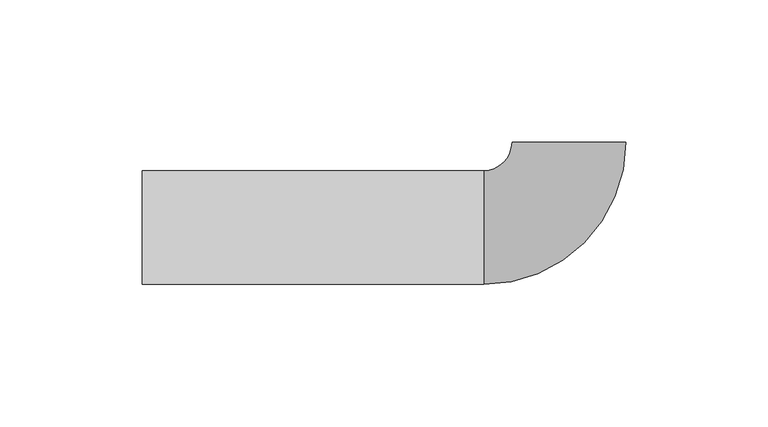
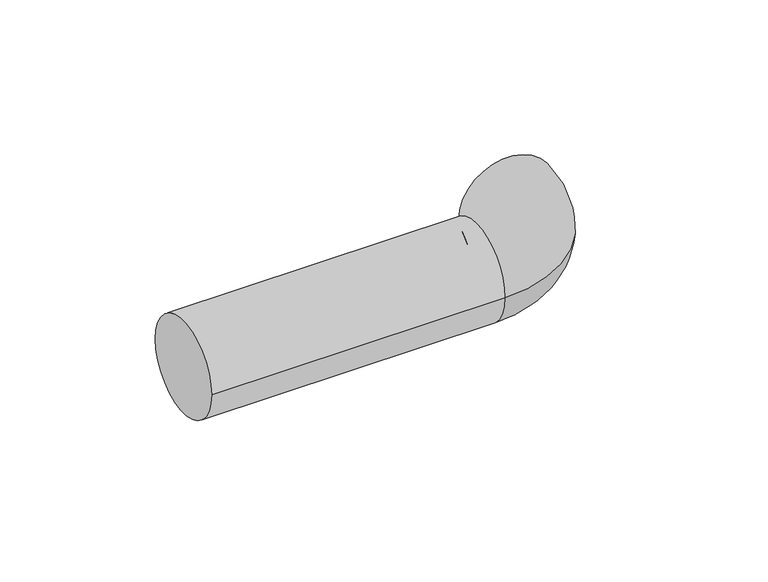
"""IFC4 building model written with IfcOpenShell, lengths in millimetres: pipe fitting geometry, Pipelife - VRD - Kolano wydłużone : Pipelife - VRD - Kolano wydłużone."""

import ifcopenshell
import ifcopenshell.guid

model = None  # the IFC model being written
_history = None  # IfcOwnerHistory: only IFC2X3 demands one
_inside = {}  # id of a spatial element -> (the spatial element, [elements in it])
_under = {}  # id of a project, library or spatial element -> (it, [spatial elements below it])
_declared = {}  # id of a project -> (the project, [libraries it declares])
_typed = {}  # id of a type object -> (the type object, [elements of that type])
_made_of = {}  # id of a material, layer set ... -> (it, [elements and type objects made of it])


def new_model(schema):
    """Start an empty IFC model of exactly this schema.

    Asked for "IFC4X3", IfcOpenShell would pick the latest addendum, in which some entities
    have other attributes; the version numbers below select the first issue.
    IFC2X3 requires an IfcOwnerHistory on every rooted entity: one is made here for all.
    """
    global model, _history
    if schema == "IFC4X3":
        model = ifcopenshell.file(schema_version=(4, 3, 0, 0))
    else:
        model = ifcopenshell.file(schema=schema)
    _inside.clear()
    _under.clear()
    _declared.clear()
    _typed.clear()
    _made_of.clear()
    _history = None
    if model.schema == "IFC2X3":
        org = make("IfcOrganization", Name="unknown")
        user = make(
            "IfcPersonAndOrganization",
            ThePerson=make("IfcPerson", FamilyName="unknown"),
            TheOrganization=org,
        )
        app = make(
            "IfcApplication",
            ApplicationDeveloper=org,
            Version="unknown",
            ApplicationFullName="unknown",
            ApplicationIdentifier="unknown",
        )
        _history = make(
            "IfcOwnerHistory",
            OwningUser=user,
            OwningApplication=app,
            ChangeAction="ADDED",
            CreationDate=0,
        )
    return model


def make(cls, **values):
    """One entity of the class cls with the attributes given. An attribute that is None is left unset."""
    return model.create_entity(
        cls, **{name: value for name, value in values.items() if value is not None}
    )


def rooted(cls, **values):
    """An entity with a GlobalId (a new one), such as an element, a storey or a relation."""
    return make(cls, GlobalId=ifcopenshell.guid.new(), OwnerHistory=_history, **values)


def si_unit(unit_type, name, prefix=None):
    """IfcSIUnit, for example si_unit("LENGTHUNIT", "METRE", prefix="MILLI")."""
    return make("IfcSIUnit", UnitType=unit_type, Prefix=prefix, Name=name)


def assignment(units):
    """IfcUnitAssignment: the units of a project."""
    return None if units is None else make("IfcUnitAssignment", Units=units)


def point(xyz):
    """IfcCartesianPoint."""
    return None if xyz is None else make("IfcCartesianPoint", Coordinates=xyz)


def direction(xyz):
    """IfcDirection."""
    return None if xyz is None else make("IfcDirection", DirectionRatios=xyz)


def frame(location, z_axis=None, x_axis=None):
    """IfcAxis2Placement3D, a coordinate frame: its origin and axes. An axis left out is left unset."""
    return make(
        "IfcAxis2Placement3D",
        Location=point(location),
        Axis=direction(z_axis),
        RefDirection=direction(x_axis),
    )


def origin():
    """The frame at (0, 0, 0) with its axes left unset."""
    return frame((0.0, 0.0, 0.0))


def place(relative_to, where):
    """IfcLocalPlacement: puts the frame where relative to a parent placement (None: the world)."""
    return make(
        "IfcLocalPlacement", PlacementRelTo=relative_to, RelativePlacement=where
    )


def context(
    kind, dimensions, precision=None, world=None, true_north=None, identifier=None
):
    """IfcGeometricRepresentationContext, for example the 3D "Model" context."""
    return make(
        "IfcGeometricRepresentationContext",
        ContextIdentifier=identifier,
        ContextType=kind,
        CoordinateSpaceDimension=dimensions,
        Precision=precision,
        WorldCoordinateSystem=world,
        TrueNorth=true_north,
    )


def project(units=None, contexts=None):
    """IfcProject with its units and contexts."""
    return rooted(
        "IfcProject",
        Name="project",
        RepresentationContexts=contexts,
        UnitsInContext=assignment(units),
    )


def spatial(cls, under=None, at=None, **own):
    """A site, building, storey or space (cls), placed at a placement, below another one or the project."""
    s = rooted(cls, ObjectPlacement=at, **own)
    if under is not None:
        _under.setdefault(under.id(), (under, []))[1].append(s)
    return s


def circle_curve(where, radius):
    """IfcCircle in the frame where."""
    return make("IfcCircle", Position=where, Radius=radius)


def ellipse_curve(where, semi_axis1, semi_axis2):
    """IfcEllipse in the frame where."""
    return make(
        "IfcEllipse", Position=where, SemiAxis1=semi_axis1, SemiAxis2=semi_axis2
    )


def trimmed(basis, trim1, trim2, sense, master):
    """IfcTrimmedCurve: the piece of a basis curve between two trims."""
    return make(
        "IfcTrimmedCurve",
        BasisCurve=basis,
        Trim1=trim1,
        Trim2=trim2,
        SenseAgreement=sense,
        MasterRepresentation=master,
    )


def shape(context_of_items, identifier, shape_type, items):
    """IfcShapeRepresentation: the items that make up one representation, for example the "Body"."""
    return make(
        "IfcShapeRepresentation",
        ContextOfItems=context_of_items,
        RepresentationIdentifier=identifier,
        RepresentationType=shape_type,
        Items=items,
    )


def source(mapping_origin, context_of_items, identifier, shape_type, items):
    """IfcRepresentationMap: a shape defined once, which mapped items show again and again."""
    return make(
        "IfcRepresentationMap",
        MappingOrigin=mapping_origin,
        MappedRepresentation=shape(context_of_items, identifier, shape_type, items),
    )


def transform(
    local_origin,
    x_axis=None,
    y_axis=None,
    z_axis=None,
    scale=None,
    scale2=None,
    scale3=None,
    uniform=True,
):
    """IfcCartesianTransformationOperator3D, or its non-uniform kind. x_axis, y_axis, z_axis: its Axis1, 2, 3."""
    if uniform:
        return make(
            "IfcCartesianTransformationOperator3D",
            Axis1=direction(x_axis),
            Axis2=direction(y_axis),
            LocalOrigin=point(local_origin),
            Scale=scale,
            Axis3=direction(z_axis),
        )
    return make(
        "IfcCartesianTransformationOperator3DnonUniform",
        Axis1=direction(x_axis),
        Axis2=direction(y_axis),
        LocalOrigin=point(local_origin),
        Scale=scale,
        Axis3=direction(z_axis),
        Scale2=scale2,
        Scale3=scale3,
    )


def mapped(mapping_source, mapping_target):
    """IfcMappedItem: shows the shape of a source again, moved by a transform."""
    return make(
        "IfcMappedItem", MappingSource=mapping_source, MappingTarget=mapping_target
    )


def made_of(thing, what):
    """Note that an element or type object is made of a material, layer set ...; save() writes the relation."""
    if what is not None:
        _made_of.setdefault(what.id(), (what, []))[1].append(thing)
    return thing


def element(
    cls,
    number,
    at=None,
    inside=None,
    cuts=None,
    type_object=None,
    material=None,
    context=None,
    identifier="Body",
    shape_type=None,
    held_by="IfcProductDefinitionShape",
    body=None,
    shapes=None,
    **own,
):
    """One element of the class cls, such as IfcWall. Its Tag is "e" and its number.

    at: its placement. inside: the storey or other place that contains it. cuts: it is an
    opening in that element (IfcRelVoidsElement). A single representation is given by context,
    identifier, shape_type and body (its items); several are given by shapes. held_by: the class
    of the entity that holds the representations. save() writes the other relations.
    """
    e = rooted(cls, Tag="e%d" % number, ObjectPlacement=at, **own)
    if body is not None:
        shapes = [shape(context, identifier, shape_type, body)]
    if shapes is not None:
        e.Representation = make(held_by, Representations=shapes)
    if inside is not None:
        _inside.setdefault(inside.id(), (inside, []))[1].append(e)
    if cuts is not None:
        rooted(
            "IfcRelVoidsElement", RelatingBuildingElement=cuts, RelatedOpeningElement=e
        )
    if type_object is not None:
        _typed.setdefault(type_object.id(), (type_object, []))[1].append(e)
    return made_of(e, material)


def aggregate(whole, parts):
    """IfcRelAggregates: a whole, such as a stair, and the parts it consists of."""
    return rooted("IfcRelAggregates", RelatingObject=whole, RelatedObjects=parts)


def save(model, path):
    """Write the relations noted so far, then the file.

    IfcRelAggregates (storeys below a building ...), IfcRelContainedInSpatialStructure (elements
    in a storey), IfcRelDefinesByType, IfcRelAssociatesMaterial and IfcRelDeclares: one each for
    every whole, place, type object, material and project.
    """
    for whole, parts in _under.values():
        aggregate(whole, parts)
    for where, things in _inside.values():
        rooted(
            "IfcRelContainedInSpatialStructure",
            RelatedElements=things,
            RelatingStructure=where,
        )
    for kind, things in _typed.values():
        rooted("IfcRelDefinesByType", RelatedObjects=things, RelatingType=kind)
    for what, things in _made_of.values():
        rooted("IfcRelAssociatesMaterial", RelatedObjects=things, RelatingMaterial=what)
    for by, libraries in _declared.values():
        rooted("IfcRelDeclares", RelatingContext=by, RelatedDefinitions=libraries)
    model.write(path)


def plane_surface(at):
    """IfcPlane: the flat surface through the origin of the frame at, square to its z axis."""
    return make("IfcPlane", Position=at)


def cylinder_surface(at, radius):
    """IfcCylindricalSurface: all points at the distance radius from the z axis of the frame at."""
    return make("IfcCylindricalSurface", Position=at, Radius=radius)


def revolved_surface(curve, axis_point, axis_direction):
    """IfcSurfaceOfRevolution: the curve turned about the line through axis_point along axis_direction."""
    return make(
        "IfcSurfaceOfRevolution",
        SweptCurve=make("IfcArbitraryOpenProfileDef", ProfileType="CURVE", Curve=curve),
        AxisPosition=make("IfcAxis1Placement", Location=point(axis_point), Axis=direction(axis_direction)),
    )


def advanced_brep(points, edges, surfaces, faces):
    """IfcAdvancedBrep: a solid bounded by faces that lie on surfaces and meet in shared edges.

    An edge is (start, end): straight between two places in points (the first is 0);
    or (start, end, curve); or (start, end, curve, False) where it runs against its curve.
    A face is (place in surfaces, loops), or (place, loops, False) where it looks against
    its surface's normal. A loop lists edges by number (the first is 1), with a minus sign
    where the edge is run from its end to its start. The first loop is the outer one.
    """
    corners = [point(p) for p in points]
    vertices = [make("IfcVertexPoint", VertexGeometry=c) for c in corners]
    made = []
    for start, end, *more in edges:
        made.append(
            make(
                "IfcEdgeCurve",
                EdgeStart=vertices[start],
                EdgeEnd=vertices[end],
                EdgeGeometry=more[0] if more else make("IfcPolyline", Points=[corners[start], corners[end]]),
                SameSense=more[1] if len(more) > 1 else True,
            )
        )
    hull = []
    for where, loops, *sense in faces:
        bounds = []
        for j, loop in enumerate(loops):
            ring = [make("IfcOrientedEdge", EdgeElement=made[abs(k) - 1], Orientation=k > 0) for k in loop]
            bounds.append(
                make(
                    "IfcFaceOuterBound" if j == 0 else "IfcFaceBound",
                    Bound=make("IfcEdgeLoop", EdgeList=ring),
                    Orientation=True,
                )
            )
        hull.append(make("IfcAdvancedFace", Bounds=bounds, FaceSurface=surfaces[where], SameSense=sense[0] if sense else True))
    return make("IfcAdvancedBrep", Outer=make("IfcClosedShell", CfsFaces=hull))


def pipe_fitting_31b7b513(model_context):
    return source(origin(), model_context, "Body", "AdvancedBrep", [
        advanced_brep(
        [(-150.0, 20.0, 0.0), (-150.0, -20.0, 0.0), (-30.0, -20.0, 0.0), (-30.0, 0.0, 20.0), (-30.0, 20.0, 0.0), (-30.0, 0.0, -20.0), (20.0, 30.0, 0.0), (-20.0, 30.0, 0.0)],
        [
            (0, 1, circle_curve(frame((-150.0, 0.0, 0.0), z_axis=(-1.0, 0.0, 0.0), x_axis=(0.0, -1.0, 0.0)), 20.0)),
            (1, 0, circle_curve(frame((-150.0, 0.0, 0.0), z_axis=(-1.0, 0.0, 0.0), x_axis=(0.0, -1.0, 0.0)), 20.0)),
            (1, 2),
            (2, 3, circle_curve(frame((-30.0, 0.0, 0.0), z_axis=(-1.0, 0.0, 0.0), x_axis=(0.0, -1.0, 0.0)), 20.0)),
            (3, 4, circle_curve(frame((-30.0, 0.0, 0.0), z_axis=(-1.0, 0.0, 0.0), x_axis=(0.0, -1.0, 0.0)), 20.0)),
            (4, 0),
            (4, 5, circle_curve(frame((-30.0, 0.0, 0.0), z_axis=(-1.0, 0.0, 0.0), x_axis=(0.0, -1.0, 0.0)), 20.0)),
            (5, 2, circle_curve(frame((-30.0, 0.0, 0.0), z_axis=(-1.0, 0.0, 0.0), x_axis=(0.0, -1.0, 0.0)), 20.0)),
            (6, 7, circle_curve(frame((0.0, 30.0, 0.0), z_axis=(0.0, 1.0, 0.0), x_axis=(-1.0, 0.0, 0.0)), 20.0)),
            (7, 6, circle_curve(frame((0.0, 30.0, 0.0), z_axis=(0.0, 1.0, 0.0), x_axis=(-1.0, 0.0, 0.0)), 20.0)),
            (7, 4, circle_curve(frame((-30.0, 30.0, 0.0), z_axis=(0.0, 0.0, -1.0), x_axis=(0.0, -1.0, 0.0)), 10.0)),
            (2, 6, circle_curve(frame((-30.0, 30.0, 0.0), z_axis=(0.0, 0.0, 1.0), x_axis=(0.0, -1.0, 0.0)), 50.0)),
        ],
        [
            plane_surface(frame((-150.0, 0.0, 0.0), z_axis=(-1.0, 0.0, 0.0), x_axis=(0.0, 0.0, 1.0))),
            cylinder_surface(frame((-30.0, 0.0, 0.0), z_axis=(1.0, 0.0, 0.0), x_axis=(0.0, -1.0, 0.0)), 20.0),
            plane_surface(frame((0.0, 30.0, 0.0), z_axis=(0.0, 1.0, 0.0), x_axis=(0.0, 0.0, 1.0))),
            revolved_surface(trimmed(ellipse_curve(frame((-30.0, 0.0, 0.0), z_axis=(-1.0, 0.0, 0.0), x_axis=(0.0, 1.0, 0.0)), 20.0, 20.0), [point((-30.0, -20.0, 0.0))], [point((-30.0, 20.0, 0.0))], True, "CARTESIAN"), (-30.0, 30.0, 0.0), (0.0, 0.0, 1.0)),
            revolved_surface(trimmed(ellipse_curve(frame((-30.0, 0.0, 0.0), z_axis=(-1.0, 0.0, 0.0), x_axis=(0.0, 1.0, 0.0)), 20.0, 20.0), [point((-30.0, 20.0, 0.0))], [point((-30.0, -20.0, 0.0))], True, "CARTESIAN"), (-30.0, 30.0, 0.0), (0.0, 0.0, 1.0)),
        ],
        [
            (0, [[1, 2]]),
            (1, [[-2, 3, 4, 5, 6]]),
            (1, [[-1, -6, 7, 8, -3]]),
            (2, [[9, 10]]),
            (3, [[-10, 11, -5, -4, 12]]),
            (4, [[-9, -12, -8, -7, -11]]),
        ],
    ),
    ])


if __name__ == "__main__":
    model = new_model("IFC4")
    model_context = context("Model", 3, world=origin())
    ifc_project = project(units=[si_unit("LENGTHUNIT", "METRE", prefix="MILLI")], contexts=[model_context])
    site = spatial("IfcSite", under=ifc_project)
    building = spatial("IfcBuilding", under=site)
    placement = place(None, origin())
    pipe_fitting_shape = pipe_fitting_31b7b513(model_context)
    element("IfcPipeFitting", 1, ObjectType="Pipelife - VRD - Kolano wydłużone : Pipelife - VRD - Kolano wydłużone", at=placement, inside=building, context=model_context, shape_type="MappedRepresentation", body=[
        mapped(pipe_fitting_shape, transform((0.0, 0.0, 0.0), x_axis=(1.0, 0.0, 0.0), y_axis=(0.0, 1.0, 0.0), z_axis=(0.0, 0.0, 1.0))),
    ])
    save(model, "model.ifc")
